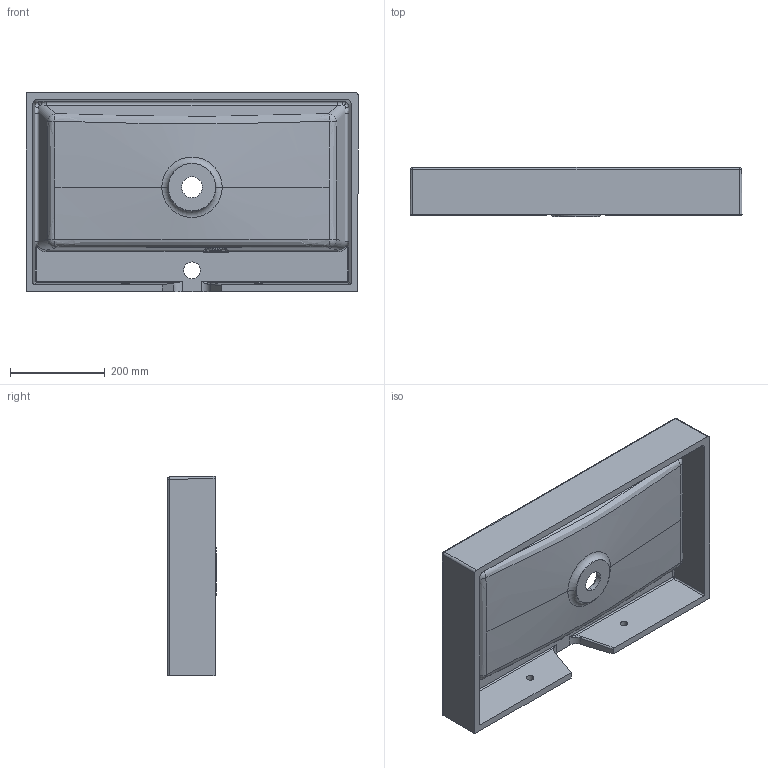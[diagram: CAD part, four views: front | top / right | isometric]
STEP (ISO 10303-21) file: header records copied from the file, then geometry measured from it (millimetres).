
FILE_DESCRIPTION (( 'STEP AP203' ), '1' );
FILE_NAME ('F1705071.step', '2021-10-27T11:54:33', ( '' ), ( '' ), 'SwSTEP 2.0', 'SolidWorks 2019', '' );
FILE_SCHEMA (( 'CONFIG_CONTROL_DESIGN' ));
Length unit declared in the file: millimetre
Products named in the file (1): F1705071
Bounding box: 700 x 103 x 420 mm (x, y, z)
Volume: 7970486.9 mm3; surface area: 1106244.3 mm2
Topology: 1 solids, 1 shells, 148 faces, 357 edges, 198 vertices
Faces by surface type: cylinder 52, bspline 44, plane 24, sphere 12, torus 8, cone 8
Entity records: 6553 total; most frequent: CARTESIAN_POINT 3455, ORIENTED_EDGE 688, DIRECTION 577, EDGE_CURVE 344, AXIS2_PLACEMENT_3D 231, VERTEX_POINT 198, EDGE_LOOP 158, FACE_OUTER_BOUND 148
